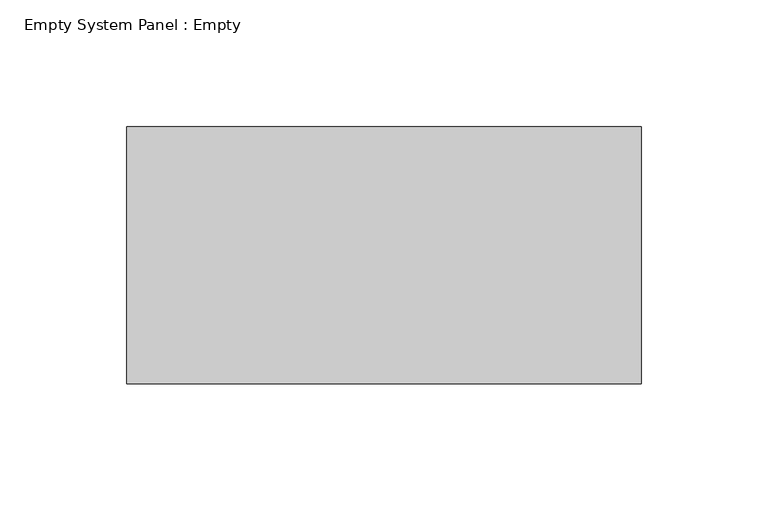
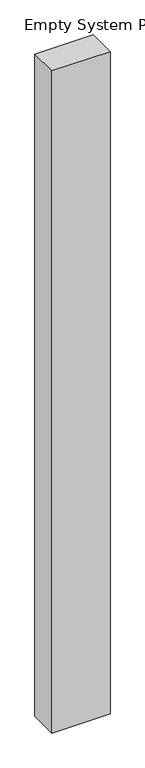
"""IFC4 building model written with IfcOpenShell, lengths in millimetres: plate geometry, Empty System Panel : Empty."""

import ifcopenshell
import ifcopenshell.guid

model = None  # the IFC model being written
_history = None  # IfcOwnerHistory: only IFC2X3 demands one
_inside = {}  # id of a spatial element -> (the spatial element, [elements in it])
_under = {}  # id of a project, library or spatial element -> (it, [spatial elements below it])
_declared = {}  # id of a project -> (the project, [libraries it declares])
_typed = {}  # id of a type object -> (the type object, [elements of that type])
_made_of = {}  # id of a material, layer set ... -> (it, [elements and type objects made of it])


def new_model(schema):
    """Start an empty IFC model of exactly this schema.

    Asked for "IFC4X3", IfcOpenShell would pick the latest addendum, in which some entities
    have other attributes; the version numbers below select the first issue.
    IFC2X3 requires an IfcOwnerHistory on every rooted entity: one is made here for all.
    """
    global model, _history
    if schema == "IFC4X3":
        model = ifcopenshell.file(schema_version=(4, 3, 0, 0))
    else:
        model = ifcopenshell.file(schema=schema)
    _inside.clear()
    _under.clear()
    _declared.clear()
    _typed.clear()
    _made_of.clear()
    _history = None
    if model.schema == "IFC2X3":
        org = make("IfcOrganization", Name="unknown")
        user = make(
            "IfcPersonAndOrganization",
            ThePerson=make("IfcPerson", FamilyName="unknown"),
            TheOrganization=org,
        )
        app = make(
            "IfcApplication",
            ApplicationDeveloper=org,
            Version="unknown",
            ApplicationFullName="unknown",
            ApplicationIdentifier="unknown",
        )
        _history = make(
            "IfcOwnerHistory",
            OwningUser=user,
            OwningApplication=app,
            ChangeAction="ADDED",
            CreationDate=0,
        )
    return model


def make(cls, **values):
    """One entity of the class cls with the attributes given. An attribute that is None is left unset."""
    return model.create_entity(
        cls, **{name: value for name, value in values.items() if value is not None}
    )


def rooted(cls, **values):
    """An entity with a GlobalId (a new one), such as an element, a storey or a relation."""
    return make(cls, GlobalId=ifcopenshell.guid.new(), OwnerHistory=_history, **values)


def si_unit(unit_type, name, prefix=None):
    """IfcSIUnit, for example si_unit("LENGTHUNIT", "METRE", prefix="MILLI")."""
    return make("IfcSIUnit", UnitType=unit_type, Prefix=prefix, Name=name)


def assignment(units):
    """IfcUnitAssignment: the units of a project."""
    return None if units is None else make("IfcUnitAssignment", Units=units)


def point(xyz):
    """IfcCartesianPoint."""
    return None if xyz is None else make("IfcCartesianPoint", Coordinates=xyz)


def direction(xyz):
    """IfcDirection."""
    return None if xyz is None else make("IfcDirection", DirectionRatios=xyz)


def frame(location, z_axis=None, x_axis=None):
    """IfcAxis2Placement3D, a coordinate frame: its origin and axes. An axis left out is left unset."""
    return make(
        "IfcAxis2Placement3D",
        Location=point(location),
        Axis=direction(z_axis),
        RefDirection=direction(x_axis),
    )


def origin():
    """The frame at (0, 0, 0) with its axes left unset."""
    return frame((0.0, 0.0, 0.0))


def origin_with_axes():
    """The frame at (0, 0, 0) with the z axis (0, 0, 1) and the x axis (1, 0, 0) written out."""
    return frame((0.0, 0.0, 0.0), z_axis=(0.0, 0.0, 1.0), x_axis=(1.0, 0.0, 0.0))


def place(relative_to, where):
    """IfcLocalPlacement: puts the frame where relative to a parent placement (None: the world)."""
    return make(
        "IfcLocalPlacement", PlacementRelTo=relative_to, RelativePlacement=where
    )


def context(
    kind, dimensions, precision=None, world=None, true_north=None, identifier=None
):
    """IfcGeometricRepresentationContext, for example the 3D "Model" context."""
    return make(
        "IfcGeometricRepresentationContext",
        ContextIdentifier=identifier,
        ContextType=kind,
        CoordinateSpaceDimension=dimensions,
        Precision=precision,
        WorldCoordinateSystem=world,
        TrueNorth=true_north,
    )


def project(units=None, contexts=None):
    """IfcProject with its units and contexts."""
    return rooted(
        "IfcProject",
        Name="project",
        RepresentationContexts=contexts,
        UnitsInContext=assignment(units),
    )


def spatial(cls, under=None, at=None, **own):
    """A site, building, storey or space (cls), placed at a placement, below another one or the project."""
    s = rooted(cls, ObjectPlacement=at, **own)
    if under is not None:
        _under.setdefault(under.id(), (under, []))[1].append(s)
    return s


def polyline(points):
    """IfcPolyline through the points."""
    return make("IfcPolyline", Points=[point(p) for p in points])


def outline(outer, holes=None, kind="AREA"):
    """IfcArbitraryClosedProfileDef: a profile drawn as a closed curve; with holes, ...WithVoids."""
    if holes is None:
        return make("IfcArbitraryClosedProfileDef", ProfileType=kind, OuterCurve=outer)
    return make(
        "IfcArbitraryProfileDefWithVoids",
        ProfileType=kind,
        OuterCurve=outer,
        InnerCurves=holes,
    )


def extrude(swept, where, along, depth):
    """IfcExtrudedAreaSolid: the profile swept, set in the frame where, extruded along a direction by depth."""
    return make(
        "IfcExtrudedAreaSolid",
        SweptArea=swept,
        Position=where,
        ExtrudedDirection=direction(along),
        Depth=depth,
    )


def shape(context_of_items, identifier, shape_type, items):
    """IfcShapeRepresentation: the items that make up one representation, for example the "Body"."""
    return make(
        "IfcShapeRepresentation",
        ContextOfItems=context_of_items,
        RepresentationIdentifier=identifier,
        RepresentationType=shape_type,
        Items=items,
    )


def source(mapping_origin, context_of_items, identifier, shape_type, items):
    """IfcRepresentationMap: a shape defined once, which mapped items show again and again."""
    return make(
        "IfcRepresentationMap",
        MappingOrigin=mapping_origin,
        MappedRepresentation=shape(context_of_items, identifier, shape_type, items),
    )


def transform(
    local_origin,
    x_axis=None,
    y_axis=None,
    z_axis=None,
    scale=None,
    scale2=None,
    scale3=None,
    uniform=True,
):
    """IfcCartesianTransformationOperator3D, or its non-uniform kind. x_axis, y_axis, z_axis: its Axis1, 2, 3."""
    if uniform:
        return make(
            "IfcCartesianTransformationOperator3D",
            Axis1=direction(x_axis),
            Axis2=direction(y_axis),
            LocalOrigin=point(local_origin),
            Scale=scale,
            Axis3=direction(z_axis),
        )
    return make(
        "IfcCartesianTransformationOperator3DnonUniform",
        Axis1=direction(x_axis),
        Axis2=direction(y_axis),
        LocalOrigin=point(local_origin),
        Scale=scale,
        Axis3=direction(z_axis),
        Scale2=scale2,
        Scale3=scale3,
    )


def mapped(mapping_source, mapping_target):
    """IfcMappedItem: shows the shape of a source again, moved by a transform."""
    return make(
        "IfcMappedItem", MappingSource=mapping_source, MappingTarget=mapping_target
    )


def made_of(thing, what):
    """Note that an element or type object is made of a material, layer set ...; save() writes the relation."""
    if what is not None:
        _made_of.setdefault(what.id(), (what, []))[1].append(thing)
    return thing


def element(
    cls,
    number,
    at=None,
    inside=None,
    cuts=None,
    type_object=None,
    material=None,
    context=None,
    identifier="Body",
    shape_type=None,
    held_by="IfcProductDefinitionShape",
    body=None,
    shapes=None,
    **own,
):
    """One element of the class cls, such as IfcWall. Its Tag is "e" and its number.

    at: its placement. inside: the storey or other place that contains it. cuts: it is an
    opening in that element (IfcRelVoidsElement). A single representation is given by context,
    identifier, shape_type and body (its items); several are given by shapes. held_by: the class
    of the entity that holds the representations. save() writes the other relations.
    """
    e = rooted(cls, Tag="e%d" % number, ObjectPlacement=at, **own)
    if body is not None:
        shapes = [shape(context, identifier, shape_type, body)]
    if shapes is not None:
        e.Representation = make(held_by, Representations=shapes)
    if inside is not None:
        _inside.setdefault(inside.id(), (inside, []))[1].append(e)
    if cuts is not None:
        rooted(
            "IfcRelVoidsElement", RelatingBuildingElement=cuts, RelatedOpeningElement=e
        )
    if type_object is not None:
        _typed.setdefault(type_object.id(), (type_object, []))[1].append(e)
    return made_of(e, material)


def aggregate(whole, parts):
    """IfcRelAggregates: a whole, such as a stair, and the parts it consists of."""
    return rooted("IfcRelAggregates", RelatingObject=whole, RelatedObjects=parts)


def save(model, path):
    """Write the relations noted so far, then the file.

    IfcRelAggregates (storeys below a building ...), IfcRelContainedInSpatialStructure (elements
    in a storey), IfcRelDefinesByType, IfcRelAssociatesMaterial and IfcRelDeclares: one each for
    every whole, place, type object, material and project.
    """
    for whole, parts in _under.values():
        aggregate(whole, parts)
    for where, things in _inside.values():
        rooted(
            "IfcRelContainedInSpatialStructure",
            RelatedElements=things,
            RelatingStructure=where,
        )
    for kind, things in _typed.values():
        rooted("IfcRelDefinesByType", RelatedObjects=things, RelatingType=kind)
    for what, things in _made_of.values():
        rooted("IfcRelAssociatesMaterial", RelatedObjects=things, RelatingMaterial=what)
    for by, libraries in _declared.values():
        rooted("IfcRelDeclares", RelatingContext=by, RelatedDefinitions=libraries)
    model.write(path)


def empty_system_panel_empty_22519410(model_context):
    return source(origin(), model_context, "Body", "SweptSolid", [
        extrude(outline(polyline([(101.6, -50.8), (-101.6, -50.8), (-101.6, 50.8), (101.6, 50.8), (101.6, -50.8)])), origin_with_axes(), (0.0, 0.0, 1.0), 2438.4),
    ])


if __name__ == "__main__":
    model = new_model("IFC4")
    model_context = context("Model", 3, world=origin())
    ifc_project = project(units=[si_unit("LENGTHUNIT", "METRE", prefix="MILLI")], contexts=[model_context])
    site = spatial("IfcSite", under=ifc_project)
    building = spatial("IfcBuilding", under=site)
    placement = place(None, origin())
    empty_system_panel_empty_shape = empty_system_panel_empty_22519410(model_context)
    element("IfcPlate", 1, ObjectType="Empty System Panel : Empty", at=placement, inside=building, context=model_context, shape_type="MappedRepresentation", body=[
        mapped(empty_system_panel_empty_shape, transform((0.0, 0.0, 0.0), x_axis=(1.0, 0.0, 0.0), y_axis=(0.0, 1.0, 0.0), z_axis=(0.0, 0.0, 1.0))),
    ])
    save(model, "model.ifc")
